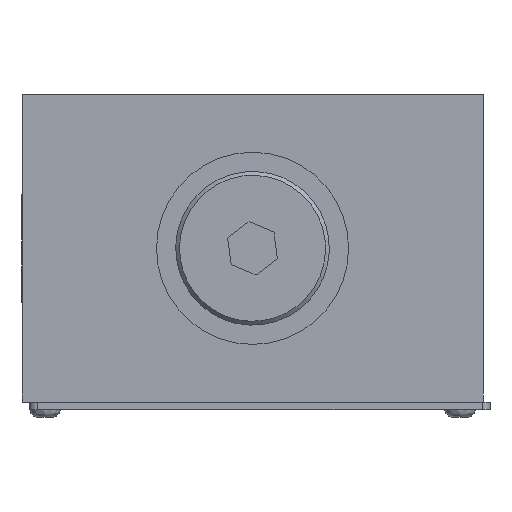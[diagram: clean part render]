
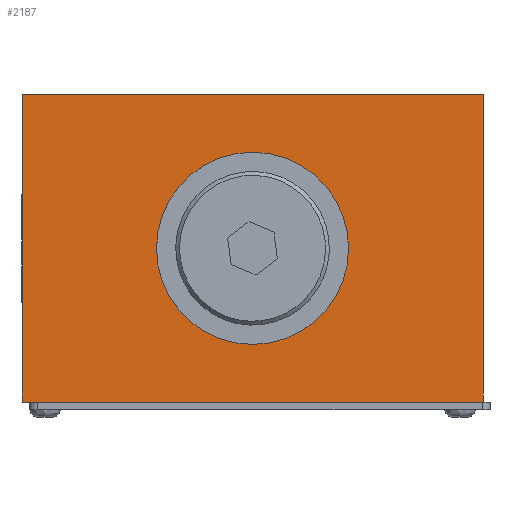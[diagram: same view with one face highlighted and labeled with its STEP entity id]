
A CAD part, left-side view. The second image highlights one B-rep face of the part: STEP entity #2187.
In plain terms, the highlighted planar face has unit normal (-1, 0, 0).
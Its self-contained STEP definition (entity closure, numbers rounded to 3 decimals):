
#324=LINE('',#12752,#659);
#332=LINE('',#12902,#667);
#333=LINE('',#13193,#668);
#334=LINE('',#13194,#669);
#659=VECTOR('',#8859,1.);
#667=VECTOR('',#8893,1.);
#668=VECTOR('',#8916,1.);
#669=VECTOR('',#8917,1.);
#1594=PLANE('',#7941);
#2187=ADVANCED_FACE('',(#2722,#2723),#1594,.T.);
#2722=FACE_BOUND('',#3223,.T.);
#2723=FACE_BOUND('',#3224,.T.);
#3223=EDGE_LOOP('',(#4117));
#3224=EDGE_LOOP('',(#4118,#4119,#4120,#4121));
#4117=ORIENTED_EDGE('',*,*,#6685,.F.);
#4118=ORIENTED_EDGE('',*,*,#6686,.F.);
#4119=ORIENTED_EDGE('',*,*,#6674,.F.);
#4120=ORIENTED_EDGE('',*,*,#6687,.T.);
#4121=ORIENTED_EDGE('',*,*,#6647,.T.);
#5926=VERTEX_POINT('',#12750);
#5928=VERTEX_POINT('',#12753);
#5951=VERTEX_POINT('',#12899);
#5952=VERTEX_POINT('',#12901);
#5963=VERTEX_POINT('',#13192);
#6647=EDGE_CURVE('',#5928,#5926,#324,.T.);
#6674=EDGE_CURVE('',#5952,#5951,#332,.T.);
#6685=EDGE_CURVE('',#5963,#5963,#7572,.T.);
#6686=EDGE_CURVE('',#5951,#5926,#333,.T.);
#6687=EDGE_CURVE('',#5952,#5928,#334,.T.);
#7572=CIRCLE('',#7940,12.5);
#7940=AXIS2_PLACEMENT_3D('',#13191,#8914,#8915);
#7941=AXIS2_PLACEMENT_3D('',#13195,#8918,#8919);
#8859=DIRECTION('',(0.,0.,-1.));
#8893=DIRECTION('',(0.,0.,-1.));
#8914=DIRECTION('',(-1.,0.,0.));
#8915=DIRECTION('',(0.,0.,1.));
#8916=DIRECTION('',(0.,1.,0.));
#8917=DIRECTION('',(0.,1.,0.));
#8918=DIRECTION('',(-1.,0.,0.));
#8919=DIRECTION('',(0.,0.,-1.));
#12750=CARTESIAN_POINT('',(128.298,189.944,-20.));
#12752=CARTESIAN_POINT('',(128.298,189.944,20.));
#12753=CARTESIAN_POINT('',(128.298,189.944,20.));
#12899=CARTESIAN_POINT('',(128.298,129.944,-20.));
#12901=CARTESIAN_POINT('',(128.298,129.944,20.));
#12902=CARTESIAN_POINT('',(128.298,129.944,20.));
#13191=CARTESIAN_POINT('',(128.298,159.944,0.));
#13192=CARTESIAN_POINT('',(128.298,159.944,12.5));
#13193=CARTESIAN_POINT('',(128.298,129.944,-20.));
#13194=CARTESIAN_POINT('',(128.298,129.944,20.));
#13195=CARTESIAN_POINT('',(128.298,129.944,20.));
